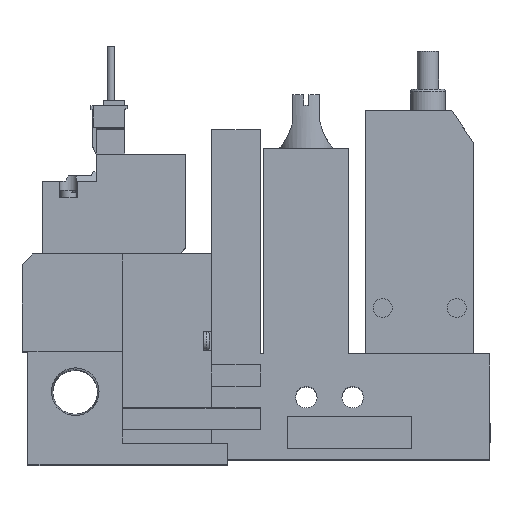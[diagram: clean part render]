
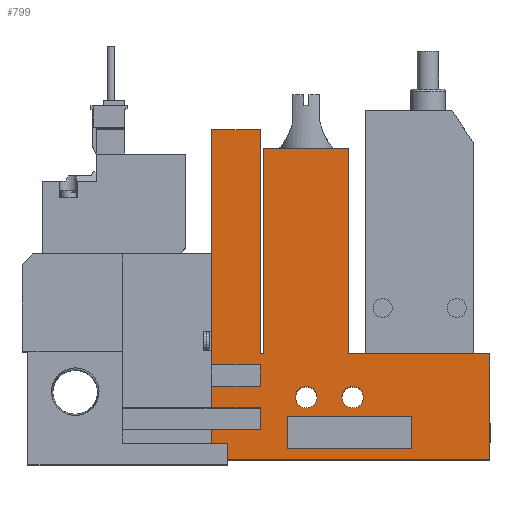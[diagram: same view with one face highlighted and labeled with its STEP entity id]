
A CAD part, top view. The second image highlights one B-rep face of the part: STEP entity #799.
In plain terms, the highlighted planar face has unit normal (0, 0, 1).
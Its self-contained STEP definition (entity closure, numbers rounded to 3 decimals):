
#799=ADVANCED_FACE('',(#1622,#1623,#1624,#1625),#1626,.T.);
#1622=FACE_OUTER_BOUND('',#2646,.T.);
#1623=FACE_BOUND('',#2647,.T.);
#1624=FACE_BOUND('',#2648,.T.);
#1625=FACE_BOUND('',#2649,.T.);
#1626=PLANE('',#2650);
#2646=EDGE_LOOP('',(#5629,#5630,#5631,#5632,#5633,#5634,#5635,#5636,#5637,#5638,#5639,#5640,#5641,#5642,#5643,#5644,#5645,#5646));
#2647=EDGE_LOOP('',(#5647,#5648,#5649,#5650));
#2648=EDGE_LOOP('',(#5651));
#2649=EDGE_LOOP('',(#5652));
#2650=AXIS2_PLACEMENT_3D('',#5653,#5654,#5655);
#5629=ORIENTED_EDGE('',*,*,#7147,.T.);
#5630=ORIENTED_EDGE('',*,*,#7106,.T.);
#5631=ORIENTED_EDGE('',*,*,#7214,.T.);
#5632=ORIENTED_EDGE('',*,*,#7216,.T.);
#5633=ORIENTED_EDGE('',*,*,#7091,.T.);
#5634=ORIENTED_EDGE('',*,*,#7254,.T.);
#5635=ORIENTED_EDGE('',*,*,#7209,.T.);
#5636=ORIENTED_EDGE('',*,*,#7130,.T.);
#5637=ORIENTED_EDGE('',*,*,#7177,.T.);
#5638=ORIENTED_EDGE('',*,*,#7231,.T.);
#5639=ORIENTED_EDGE('',*,*,#7222,.T.);
#5640=ORIENTED_EDGE('',*,*,#7093,.T.);
#5641=ORIENTED_EDGE('',*,*,#7083,.T.);
#5642=ORIENTED_EDGE('',*,*,#7225,.T.);
#5643=ORIENTED_EDGE('',*,*,#7228,.T.);
#5644=ORIENTED_EDGE('',*,*,#7229,.T.);
#5645=ORIENTED_EDGE('',*,*,#7135,.T.);
#5646=ORIENTED_EDGE('',*,*,#7230,.T.);
#5647=ORIENTED_EDGE('',*,*,#7221,.T.);
#5648=ORIENTED_EDGE('',*,*,#7088,.T.);
#5649=ORIENTED_EDGE('',*,*,#7218,.T.);
#5650=ORIENTED_EDGE('',*,*,#7220,.T.);
#5651=ORIENTED_EDGE('',*,*,#7239,.T.);
#5652=ORIENTED_EDGE('',*,*,#7240,.T.);
#5653=CARTESIAN_POINT('',(0.0,0.0,10.0));
#5654=DIRECTION('',(0.0,0.0,1.0));
#5655=DIRECTION('',(1.0,0.0,0.0));
#7083=EDGE_CURVE('',#8622,#8620,#8623,.T.);
#7088=EDGE_CURVE('',#8625,#8630,#8632,.T.);
#7091=EDGE_CURVE('',#8638,#8636,#8639,.T.);
#7093=EDGE_CURVE('',#8641,#8622,#8642,.T.);
#7106=EDGE_CURVE('',#8657,#8664,#8666,.T.);
#7130=EDGE_CURVE('',#8707,#8705,#8708,.T.);
#7135=EDGE_CURVE('',#8716,#8714,#8717,.T.);
#7147=EDGE_CURVE('',#8737,#8657,#8738,.T.);
#7177=EDGE_CURVE('',#8705,#8788,#8790,.T.);
#7209=EDGE_CURVE('',#8837,#8707,#8839,.T.);
#7214=EDGE_CURVE('',#8664,#8845,#8847,.T.);
#7216=EDGE_CURVE('',#8845,#8638,#8849,.T.);
#7218=EDGE_CURVE('',#8630,#8850,#8852,.T.);
#7220=EDGE_CURVE('',#8850,#8853,#8855,.T.);
#7221=EDGE_CURVE('',#8853,#8625,#8856,.T.);
#7222=EDGE_CURVE('',#8857,#8641,#8858,.T.);
#7225=EDGE_CURVE('',#8620,#8860,#8862,.T.);
#7228=EDGE_CURVE('',#8860,#8864,#8866,.T.);
#7229=EDGE_CURVE('',#8864,#8716,#8867,.T.);
#7230=EDGE_CURVE('',#8714,#8737,#8868,.T.);
#7231=EDGE_CURVE('',#8788,#8857,#8869,.T.);
#7239=EDGE_CURVE('',#8879,#8879,#8880,.T.);
#7240=EDGE_CURVE('',#8881,#8881,#8882,.T.);
#7254=EDGE_CURVE('',#8636,#8837,#8898,.T.);
#8620=VERTEX_POINT('',#11073);
#8622=VERTEX_POINT('',#11076);
#8623=LINE('',#11077,#11078);
#8625=VERTEX_POINT('',#11081);
#8630=VERTEX_POINT('',#11088);
#8632=LINE('',#11091,#11092);
#8636=VERTEX_POINT('',#11097);
#8638=VERTEX_POINT('',#11100);
#8639=LINE('',#11101,#11102);
#8641=VERTEX_POINT('',#11105);
#8642=LINE('',#11106,#11107);
#8657=VERTEX_POINT('',#11130);
#8664=VERTEX_POINT('',#11140);
#8666=LINE('',#11143,#11144);
#8705=VERTEX_POINT('',#11205);
#8707=VERTEX_POINT('',#11208);
#8708=LINE('',#11209,#11210);
#8714=VERTEX_POINT('',#11219);
#8716=VERTEX_POINT('',#11222);
#8717=LINE('',#11223,#11224);
#8737=VERTEX_POINT('',#11255);
#8738=LINE('',#11256,#11257);
#8788=VERTEX_POINT('',#11352);
#8790=LINE('',#11355,#11356);
#8837=VERTEX_POINT('',#11427);
#8839=LINE('',#11430,#11431);
#8845=VERTEX_POINT('',#11440);
#8847=LINE('',#11443,#11444);
#8849=LINE('',#11447,#11448);
#8850=VERTEX_POINT('',#11449);
#8852=LINE('',#11452,#11453);
#8853=VERTEX_POINT('',#11454);
#8855=LINE('',#11457,#11458);
#8856=LINE('',#11459,#11460);
#8857=VERTEX_POINT('',#11461);
#8858=LINE('',#11462,#11463);
#8860=VERTEX_POINT('',#11466);
#8862=LINE('',#11469,#11470);
#8864=VERTEX_POINT('',#11472);
#8866=LINE('',#11475,#11476);
#8867=LINE('',#11477,#11478);
#8868=LINE('',#11479,#11480);
#8869=LINE('',#11481,#11482);
#8879=VERTEX_POINT('',#11499);
#8880=CIRCLE('',#11500,2.0);
#8881=VERTEX_POINT('',#11501);
#8882=CIRCLE('',#11502,2.0);
#8898=LINE('',#11529,#11530);
#11073=CARTESIAN_POINT('',(60.45,57.5,10.0));
#11076=CARTESIAN_POINT('',(60.45,19.5,10.0));
#11077=CARTESIAN_POINT('',(60.45,19.5,10.0));
#11078=VECTOR('',#13059,1.0);
#11081=CARTESIAN_POINT('',(49.1,8.0,10.0));
#11088=CARTESIAN_POINT('',(72.1,8.0,10.0));
#11091=CARTESIAN_POINT('',(0.0,8.0,10.0));
#11092=VECTOR('',#13064,1.0);
#11097=CARTESIAN_POINT('',(35.1,9.5,10.0));
#11100=CARTESIAN_POINT('',(35.1,13.5,10.0));
#11101=CARTESIAN_POINT('',(35.1,0.0,10.0));
#11102=VECTOR('',#13067,1.0);
#11105=CARTESIAN_POINT('',(86.6,19.5,10.0));
#11106=CARTESIAN_POINT('',(86.6,19.5,10.0));
#11107=VECTOR('',#13069,1.0);
#11130=CARTESIAN_POINT('',(35.1,17.5,10.0));
#11140=CARTESIAN_POINT('',(44.1,17.5,10.0));
#11143=CARTESIAN_POINT('',(0.0,17.5,10.0));
#11144=VECTOR('',#13082,1.0);
#11205=CARTESIAN_POINT('',(35.1,5.5,10.0));
#11208=CARTESIAN_POINT('',(44.1,5.5,10.0));
#11209=CARTESIAN_POINT('',(0.0,5.5,10.0));
#11210=VECTOR('',#13106,1.0);
#11219=CARTESIAN_POINT('',(44.1,61.0,10.0));
#11222=CARTESIAN_POINT('',(44.1,19.5,10.0));
#11223=CARTESIAN_POINT('',(44.1,19.5,10.0));
#11224=VECTOR('',#13111,1.0);
#11255=CARTESIAN_POINT('',(35.1,61.0,10.0));
#11256=CARTESIAN_POINT('',(35.1,61.0,10.0));
#11257=VECTOR('',#13123,1.0);
#11352=CARTESIAN_POINT('',(35.1,0.0,10.0));
#11355=CARTESIAN_POINT('',(35.1,0.0,10.0));
#11356=VECTOR('',#13162,1.0);
#11427=CARTESIAN_POINT('',(44.1,9.5,10.0));
#11430=CARTESIAN_POINT('',(44.1,0.0,10.0));
#11431=VECTOR('',#13203,1.0);
#11440=CARTESIAN_POINT('',(44.1,13.5,10.0));
#11443=CARTESIAN_POINT('',(44.1,0.0,10.0));
#11444=VECTOR('',#13208,1.0);
#11447=CARTESIAN_POINT('',(0.0,13.5,10.0));
#11448=VECTOR('',#13210,1.0);
#11449=CARTESIAN_POINT('',(72.1,2.0,10.0));
#11452=CARTESIAN_POINT('',(72.1,0.0,10.0));
#11453=VECTOR('',#13212,1.0);
#11454=CARTESIAN_POINT('',(49.1,2.0,10.0));
#11457=CARTESIAN_POINT('',(0.0,2.0,10.0));
#11458=VECTOR('',#13214,1.0);
#11459=CARTESIAN_POINT('',(49.1,0.0,10.0));
#11460=VECTOR('',#13215,1.0);
#11461=CARTESIAN_POINT('',(86.6,0.0,10.0));
#11462=CARTESIAN_POINT('',(86.6,0.0,10.0));
#11463=VECTOR('',#13216,1.0);
#11466=CARTESIAN_POINT('',(44.75,57.5,10.0));
#11469=CARTESIAN_POINT('',(60.45,57.5,10.0));
#11470=VECTOR('',#13219,1.0);
#11472=CARTESIAN_POINT('',(44.75,19.5,10.0));
#11475=CARTESIAN_POINT('',(44.75,57.5,10.0));
#11476=VECTOR('',#13224,1.0);
#11477=CARTESIAN_POINT('',(44.75,19.5,10.0));
#11478=VECTOR('',#13225,1.0);
#11479=CARTESIAN_POINT('',(44.1,61.0,10.0));
#11480=VECTOR('',#13226,1.0);
#11481=CARTESIAN_POINT('',(18.6,0.0,10.0));
#11482=VECTOR('',#13227,1.0);
#11499=CARTESIAN_POINT('',(54.6,11.5,10.0));
#11500=AXIS2_PLACEMENT_3D('',#13235,#13236,#13237);
#11501=CARTESIAN_POINT('',(63.2,11.5,10.0));
#11502=AXIS2_PLACEMENT_3D('',#13238,#13239,#13240);
#11529=CARTESIAN_POINT('',(0.0,9.5,10.0));
#11530=VECTOR('',#13258,1.0);
#13059=DIRECTION('',(0.0,1.0,0.0));
#13064=DIRECTION('',(1.0,0.0,0.0));
#13067=DIRECTION('',(0.0,-1.0,0.0));
#13069=DIRECTION('',(-1.0,0.0,0.0));
#13082=DIRECTION('',(1.0,0.0,0.0));
#13106=DIRECTION('',(-1.0,0.0,0.0));
#13111=DIRECTION('',(0.0,1.0,0.0));
#13123=DIRECTION('',(0.0,-1.0,0.0));
#13162=DIRECTION('',(0.0,-1.0,0.0));
#13203=DIRECTION('',(0.0,-1.0,0.0));
#13208=DIRECTION('',(0.0,-1.0,0.0));
#13210=DIRECTION('',(-1.0,0.0,0.0));
#13212=DIRECTION('',(0.0,-1.0,0.0));
#13214=DIRECTION('',(-1.0,0.0,0.0));
#13215=DIRECTION('',(0.0,1.0,0.0));
#13216=DIRECTION('',(0.0,1.0,0.0));
#13219=DIRECTION('',(-1.0,0.0,0.0));
#13224=DIRECTION('',(0.0,-1.0,0.0));
#13225=DIRECTION('',(-1.0,0.0,0.0));
#13226=DIRECTION('',(-1.0,0.0,0.0));
#13227=DIRECTION('',(1.0,0.0,0.0));
#13235=CARTESIAN_POINT('',(52.6,11.5,10.0));
#13236=DIRECTION('',(0.0,0.0,-1.0));
#13237=DIRECTION('',(1.0,0.0,0.0));
#13238=CARTESIAN_POINT('',(61.2,11.5,10.0));
#13239=DIRECTION('',(0.0,0.0,-1.0));
#13240=DIRECTION('',(1.0,0.0,0.0));
#13258=DIRECTION('',(1.0,0.0,0.0));
